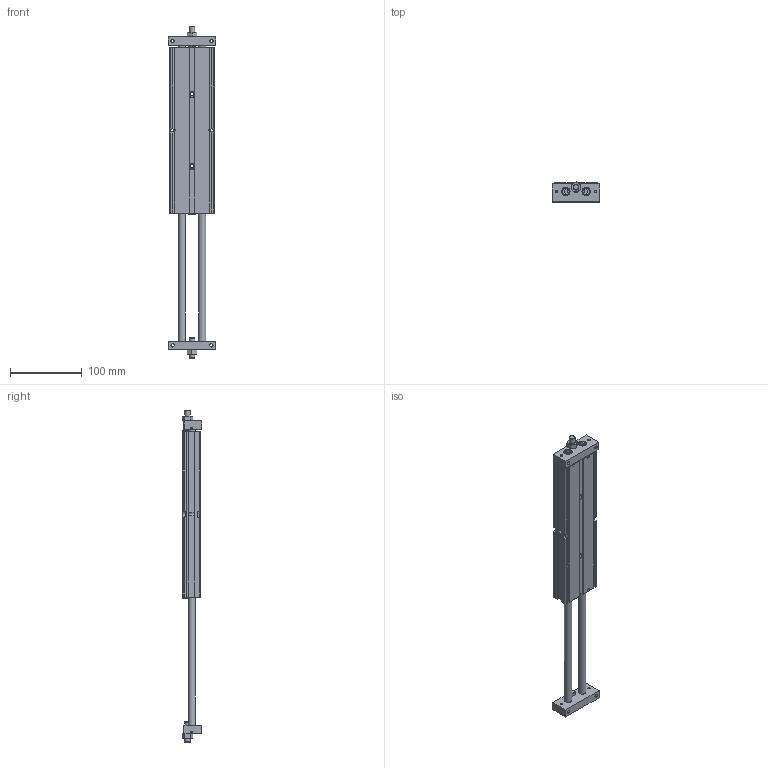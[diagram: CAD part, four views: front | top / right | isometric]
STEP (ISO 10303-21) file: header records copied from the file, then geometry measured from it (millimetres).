
FILE_DESCRIPTION((''),'2;1');
FILE_NAME('I:\3D電子目錄\氣缸\STU\STU\STU20\STU20x175.stp','2007-10-01T10:38:18',('Administrator'),(''),'Autodesk Inventor 11','Autodesk Inventor 11','');
FILE_SCHEMA(('AUTOMOTIVE_DESIGN { 1 0 10303 214 1 1 1 1 }'));
Length unit declared in the file: millimetre
Products named in the file (1): STU20
Bounding box: 66 x 27.51 x 461.5 mm (x, y, z)
Volume: 380658.3 mm3; surface area: 87529.3 mm2
Topology: 1 solids, 1 shells, 345 faces, 855 edges, 543 vertices
Faces by surface type: plane 166, cone 75, bspline 71, cylinder 29, torus 4
Full cylindrical faces by diameter (mm): 2.459 x2, 8 x6, 10 x6, 11 x4, 22 x2, 23.2 x2
Entity records: 10978 total; most frequent: CARTESIAN_POINT 3643, ORIENTED_EDGE 1470, DIRECTION 1388, EDGE_CURVE 735, EDGE_LOOP 520, VERTEX_POINT 519, AXIS2_PLACEMENT_3D 510, VECTOR 368
